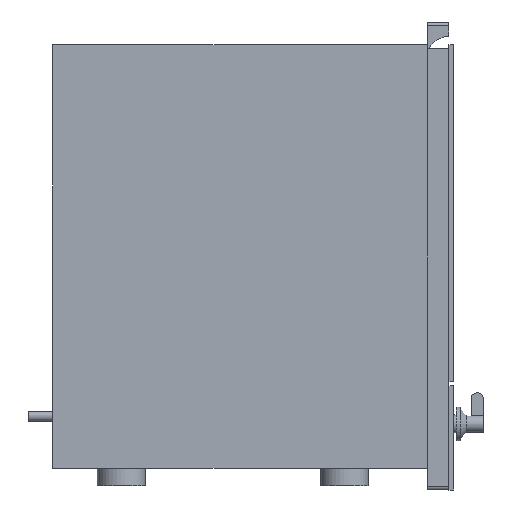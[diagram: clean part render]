
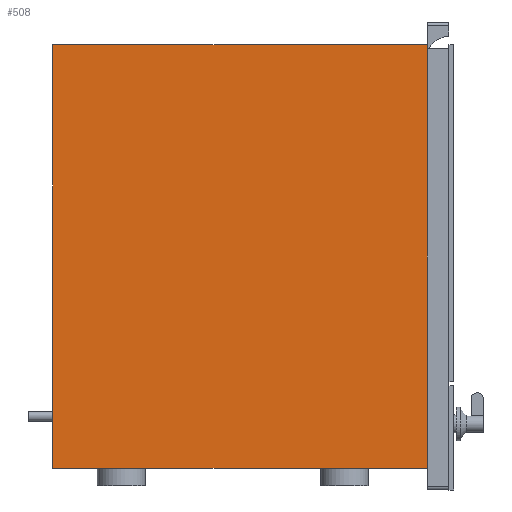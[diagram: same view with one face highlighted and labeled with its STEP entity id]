
A CAD part, left-side view. The second image highlights one B-rep face of the part: STEP entity #508.
In plain terms, the highlighted planar face has unit normal (-1, 0, 0).
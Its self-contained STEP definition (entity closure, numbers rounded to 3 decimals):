
#508=ADVANCED_FACE('',(#769),#659,.F.);
#659=PLANE('',#2695);
#769=FACE_OUTER_BOUND('',#913,.T.);
#913=EDGE_LOOP('',(#1223,#1224,#1225,#1226));
#1223=ORIENTED_EDGE('',*,*,#1990,.T.);
#1224=ORIENTED_EDGE('',*,*,#1991,.F.);
#1225=ORIENTED_EDGE('',*,*,#1992,.F.);
#1226=ORIENTED_EDGE('',*,*,#1993,.T.);
#1745=VERTEX_POINT('',#3736);
#1746=VERTEX_POINT('',#3737);
#1747=VERTEX_POINT('',#3739);
#1748=VERTEX_POINT('',#3741);
#1990=EDGE_CURVE('',#1745,#1746,#2279,.T.);
#1991=EDGE_CURVE('',#1747,#1746,#2280,.T.);
#1992=EDGE_CURVE('',#1748,#1747,#2281,.T.);
#1993=EDGE_CURVE('',#1748,#1745,#2282,.T.);
#2279=LINE('',#3735,#2479);
#2280=LINE('',#3738,#2480);
#2281=LINE('',#3740,#2481);
#2282=LINE('',#3742,#2482);
#2479=VECTOR('',#3050,1.);
#2480=VECTOR('',#3051,1.);
#2481=VECTOR('',#3052,1.);
#2482=VECTOR('',#3053,1.);
#2695=AXIS2_PLACEMENT_3D('',#3743,#3054,#3055);
#3050=DIRECTION('',(0.,-1.,0.));
#3051=DIRECTION('',(0.,0.,-1.));
#3052=DIRECTION('',(0.,-1.,0.));
#3053=DIRECTION('',(0.,0.,-1.));
#3054=DIRECTION('',(1.,0.,0.));
#3055=DIRECTION('',(0.,0.,-1.));
#3735=CARTESIAN_POINT('',(-401.757,-339.932,0.));
#3736=CARTESIAN_POINT('',(-401.757,-339.932,0.));
#3737=CARTESIAN_POINT('',(-401.757,-651.932,0.));
#3738=CARTESIAN_POINT('',(-401.757,-651.932,353.));
#3739=CARTESIAN_POINT('',(-401.757,-651.932,353.));
#3740=CARTESIAN_POINT('',(-401.757,-339.932,353.));
#3741=CARTESIAN_POINT('',(-401.757,-339.932,353.));
#3742=CARTESIAN_POINT('',(-401.757,-339.932,353.));
#3743=CARTESIAN_POINT('',(-401.757,-339.932,353.));
